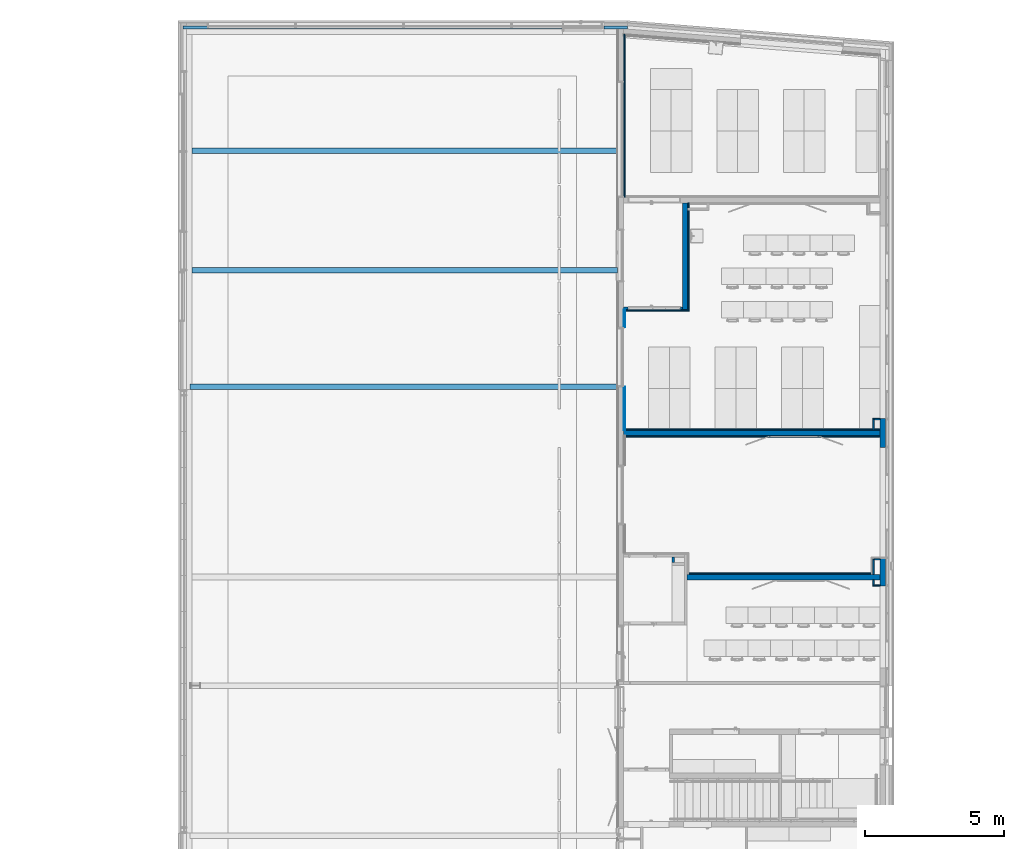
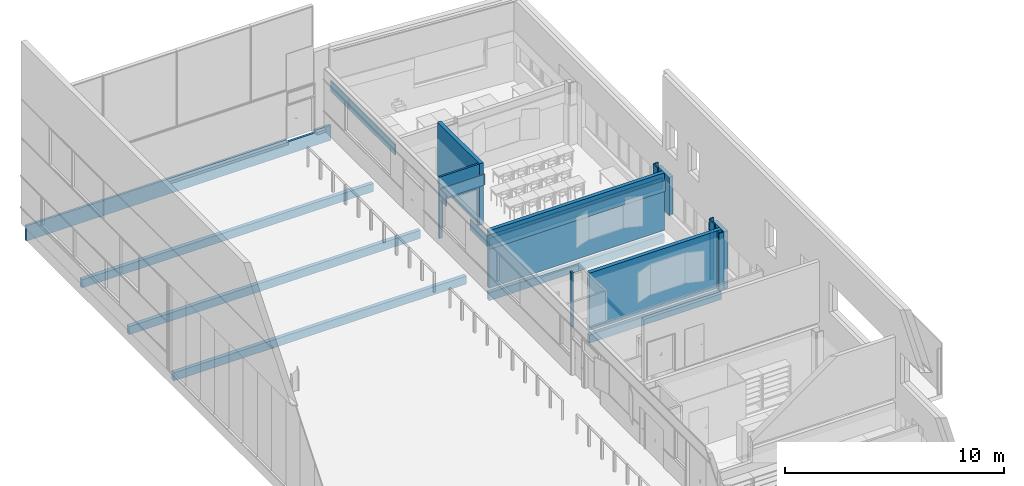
# One storey, part 65 of 137: 27 walls, 18 openings.
"""IFC2X3 building model written with IfcOpenShell, lengths in centimetres."""

from ifc_helpers import new_model, entity, si_unit, converted_unit, derived_unit, direction, frame, frame_2d, origin, place, context, subcontext, project, spatial, polyline, rectangle, outline, extrude, clip, bounded_halfspace, material, layer, layer_set, layer_usage, type_object, element, save


model = new_model("IFC2X3")

# Units and contexts
model_context = context("Model", 3, precision=0.001, world=origin(), true_north=direction((6.12303176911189e-17, 1.0)))
body_context = subcontext(model_context, "Body", "Model", "MODEL_VIEW")
ifc_project = project(units=[si_unit("LENGTHUNIT", "METRE", prefix="CENTI"), si_unit("AREAUNIT", "SQUARE_METRE"), si_unit("VOLUMEUNIT", "CUBIC_METRE"), converted_unit("PLANEANGLEUNIT", "DEGREE", entity("IfcRatioMeasure", 0.0174532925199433), si_unit("PLANEANGLEUNIT", "RADIAN"), dimensions=[0, 0, 0, 0, 0, 0, 0]), si_unit("MASSUNIT", "GRAM", prefix="KILO"), si_unit("TIMEUNIT", "SECOND"), si_unit("FREQUENCYUNIT", "HERTZ"), si_unit("THERMODYNAMICTEMPERATUREUNIT", "DEGREE_CELSIUS"), derived_unit("THERMALTRANSMITTANCEUNIT", [(si_unit("MASSUNIT", "GRAM", prefix="KILO"), 1), (si_unit("THERMODYNAMICTEMPERATUREUNIT", "KELVIN"), -1), (si_unit("TIMEUNIT", "SECOND"), -3)]), derived_unit("VOLUMETRICFLOWRATEUNIT", [(si_unit("LENGTHUNIT", "METRE"), 3), (si_unit("TIMEUNIT", "SECOND"), -1)]), si_unit("ELECTRICCURRENTUNIT", "AMPERE"), si_unit("ELECTRICVOLTAGEUNIT", "VOLT"), si_unit("POWERUNIT", "WATT"), si_unit("FORCEUNIT", "NEWTON", prefix="KILO"), si_unit("ILLUMINANCEUNIT", "LUX"), si_unit("LUMINOUSFLUXUNIT", "LUMEN"), si_unit("LUMINOUSINTENSITYUNIT", "CANDELA"), derived_unit("USERDEFINED", [(si_unit("MASSUNIT", "GRAM", prefix="KILO"), -1), (si_unit("LENGTHUNIT", "METRE"), -2), (si_unit("TIMEUNIT", "SECOND"), 3), (si_unit("LUMINOUSFLUXUNIT", "LUMEN"), 1)]), derived_unit("LINEARVELOCITYUNIT", [(si_unit("LENGTHUNIT", "METRE"), 1), (si_unit("TIMEUNIT", "SECOND"), -1)]), si_unit("PRESSUREUNIT", "PASCAL"), derived_unit("USERDEFINED", [(si_unit("LENGTHUNIT", "METRE"), -2), (si_unit("MASSUNIT", "GRAM", prefix="KILO"), 1), (si_unit("TIMEUNIT", "SECOND"), -2)])], contexts=[model_context])

# Site, building, storey
site_placement = place(None, frame((8.62739174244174, -249.285249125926, 0.0)))
site = spatial("IfcSite", under=ifc_project, at=site_placement, Name="Default", CompositionType="ELEMENT")
building_placement = place(site_placement, origin())
building = spatial("IfcBuilding", under=site, at=building_placement, CompositionType="ELEMENT")
storey_placement = place(building_placement, origin())
storey = spatial("IfcBuildingStorey", under=building, at=storey_placement, Name="RDC", CompositionType="ELEMENT", Elevation=-8.82465566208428e-11)

# Walls
ifc_material_1 = material(Name="Plâtre")
ifc_layer_1 = layer(ifc_material_1, 10.0)
ifc_layer_set_1 = layer_set([ifc_layer_1], Name="Mur de base:PLA 10")
ifc_layer_usage_1 = layer_usage(ifc_layer_set_1, "AXIS2", "NEGATIVE", 5.0)
wall_type_1 = type_object("IfcWallType", Name="Mur de base:PLA 10", PredefinedType="STANDARD", material=ifc_layer_set_1)
wall_1_placement = place(storey_placement, frame((3232.6797719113, 5637.48020813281, 0.0), z_axis=(0.0, 0.0, 1.0), x_axis=(0.0, 1.0, 0.0)))
element("IfcWallStandardCase", 1, at=wall_1_placement, inside=storey, type_object=wall_type_1, material=ifc_layer_usage_1, Name="Mur de base:PLA 10", ObjectType="Mur de base:PLA 10", context=body_context, shape_type="SweptSolid", body=[
    extrude(rectangle(XDim=20.0000000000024, YDim=10.0000000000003, at=frame_2d((10.0000000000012, 0.0), x_axis=(-1.0, 0.0))), origin(), (0.0, 0.0, 1.0), 300.0),
])
ifc_layer_2 = layer(ifc_material_1, 5.0)
ifc_layer_set_2 = layer_set([ifc_layer_2], Name="Mur de base:PLA 5")
ifc_layer_usage_2 = layer_usage(ifc_layer_set_2, "AXIS2", "NEGATIVE", 2.5)
wall_type_2 = type_object("IfcWallType", Name="Mur de base:PLA 5", PredefinedType="STANDARD", material=ifc_layer_set_2)
wall_2_placement = place(storey_placement, frame((3978.90482781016, 5554.9802081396, 0.0), z_axis=(0.0, 0.0, 1.0), x_axis=(-1.0, 0.0, 0.0)))
element("IfcWallStandardCase", 2, at=wall_2_placement, inside=storey, type_object=wall_type_2, material=ifc_layer_usage_2, Name="Mur de base:PLA 5", ObjectType="Mur de base:PLA 5", context=body_context, shape_type="Clipping", body=[
    clip(extrude(rectangle(XDim=25.9999999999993, YDim=5.0000000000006, at=frame_2d((12.9999999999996, 0.0), x_axis=(-1.0, 0.0))), origin(), (0.0, 0.0, 1.0), 320.000000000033), bounded_halfspace(frame((0.0, -2.49999999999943, 320.0), z_axis=(0.0, 0.0, -1.0), x_axis=(0.0, -1.0, 0.0)), True, frame((0.0, -2.49999999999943, 320.0)), polyline([(0.0, 0.0), (21.0, 0.0), (26.0, 0.0), (26.0, 5.0), (0.0, 5.0), (0.0, 0.0)]))),
])
ifc_layer_usage_3 = layer_usage(ifc_layer_set_2, "AXIS2", "NEGATIVE", 2.5)
wall_3_placement = place(storey_placement, frame((3955.40482781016, 5557.4802081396, 0.0), z_axis=(0.0, 0.0, 1.0), x_axis=(0.0, 1.0, 0.0)))
element("IfcWallStandardCase", 3, at=wall_3_placement, inside=storey, type_object=wall_type_2, material=ifc_layer_usage_3, Name="Mur de base:PLA 5", ObjectType="Mur de base:PLA 5", context=body_context, shape_type="Clipping", body=[
    clip(extrude(rectangle(XDim=17.5000000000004, YDim=5.0000000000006, at=frame_2d((8.75000000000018, 0.0), x_axis=(-1.0, 0.0))), origin(), (0.0, 0.0, 1.0), 320.000000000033), bounded_halfspace(frame((0.0, -2.49999999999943, 320.0), z_axis=(0.0, 0.0, -1.0), x_axis=(1.0, 0.0, 0.0)), True, frame((0.0, -2.49999999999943, 320.0)), polyline([(0.0, 0.0), (17.5000000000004, 0.0), (17.5000000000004, 5.0), (0.0, 5.0), (0.0, 0.0)]))),
])
ifc_layer_usage_4 = layer_usage(ifc_layer_set_2, "AXIS2", "POSITIVE", -2.5)
wall_4_placement = place(storey_placement, frame((3978.90482781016, 5649.4802081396, 0.0), z_axis=(0.0, 0.0, 1.0), x_axis=(-1.0, 0.0, 0.0)))
element("IfcWallStandardCase", 4, at=wall_4_placement, inside=storey, type_object=wall_type_2, material=ifc_layer_usage_4, Name="Mur de base:PLA 5", ObjectType="Mur de base:PLA 5", context=body_context, shape_type="Clipping", body=[
    clip(extrude(rectangle(XDim=20.9999999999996, YDim=5.0000000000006, at=frame_2d((10.4999999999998, 5.72875080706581e-14), x_axis=(-1.0, 0.0))), origin(), (0.0, 0.0, 1.0), 320.000000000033), bounded_halfspace(frame((0.0, -2.49999999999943, 320.0), z_axis=(0.0, 0.0, -1.0), x_axis=(0.0, -1.0, 0.0)), True, frame((0.0, -2.49999999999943, 320.0)), polyline([(0.0, 0.0), (21.0, 0.0), (21.0, 5.0), (0.0, 5.0), (0.0, 0.0)]))),
])
ifc_layer_usage_5 = layer_usage(ifc_layer_set_2, "AXIS2", "POSITIVE", -2.5)
wall_5_placement = place(storey_placement, frame((3955.40482781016, 5651.9802081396, 0.0), z_axis=(0.0, 0.0, 1.0), x_axis=(0.0, -1.0, 0.0)))
element("IfcWallStandardCase", 5, at=wall_5_placement, inside=storey, type_object=wall_type_2, material=ifc_layer_usage_5, Name="Mur de base:PLA 5", ObjectType="Mur de base:PLA 5", context=body_context, shape_type="Clipping", body=[
    clip(extrude(rectangle(XDim=56.9999999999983, YDim=5.0000000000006, at=frame_2d((28.4999999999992, 1.55875312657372e-13), x_axis=(-1.0, 0.0))), origin(), (0.0, 0.0, 1.0), 320.000000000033), bounded_halfspace(frame((0.0, -2.49999999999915, 320.0), z_axis=(0.0, 0.0, -1.0), x_axis=(-1.0, 0.0, 0.0)), True, frame((0.0, -2.49999999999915, 320.0)), polyline([(0.0, 0.0), (57.0, 0.0), (57.0, 5.0), (5.0, 5.0), (0.0, 5.0), (0.0, 0.0)]))),
])
ifc_layer_usage_6 = layer_usage(ifc_layer_set_2, "AXIS2", "POSITIVE", -2.5)
wall_6_placement = place(storey_placement, frame((3978.90482781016, 5649.4802081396, 0.0), z_axis=(0.0, 0.0, 1.0), x_axis=(-1.0, 0.0, 0.0)))
element("IfcWallStandardCase", 6, at=wall_6_placement, inside=storey, type_object=wall_type_2, material=ifc_layer_usage_6, Name="Mur de base:PLA 5", ObjectType="Mur de base:PLA 5", context=body_context, shape_type="SweptSolid", body=[
    extrude(rectangle(XDim=20.9999999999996, YDim=5.0000000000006, at=frame_2d((10.4999999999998, 5.72875080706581e-14), x_axis=(-1.0, 0.0))), origin(), (0.0, 0.0, 1.0), 343.000000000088),
])
ifc_layer_usage_7 = layer_usage(ifc_layer_set_2, "AXIS2", "POSITIVE", -2.5)
wall_7_placement = place(storey_placement, frame((3955.40482781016, 5646.9802081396, 0.0), z_axis=(0.0, 0.0, 1.0), x_axis=(0.0, -1.0, 0.0)))
element("IfcWallStandardCase", 7, at=wall_7_placement, inside=storey, type_object=wall_type_2, material=ifc_layer_usage_7, Name="Mur de base:PLA 5", ObjectType="Mur de base:PLA 5", context=body_context, shape_type="SweptSolid", body=[
    extrude(rectangle(XDim=51.9999999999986, YDim=5.0000000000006, at=frame_2d((25.9999999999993, 1.4210854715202e-13), x_axis=(-1.0, 0.0))), origin(), (0.0, 0.0, 1.0), 343.000000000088),
])
ifc_layer_usage_8 = layer_usage(ifc_layer_set_2, "AXIS2", "POSITIVE", -2.5)
wall_8_placement = place(storey_placement, frame((3978.90482781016, 6154.9802081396, 0.0), z_axis=(0.0, 0.0, 1.0), x_axis=(-1.0, 0.0, 0.0)))
element("IfcWallStandardCase", 8, at=wall_8_placement, inside=storey, type_object=wall_type_2, material=ifc_layer_usage_8, Name="Mur de base:PLA 5", ObjectType="Mur de base:PLA 5", context=body_context, shape_type="SweptSolid", body=[
    extrude(rectangle(XDim=20.9999999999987, YDim=5.0000000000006, at=frame_2d((10.4999999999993, 5.72875080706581e-14), x_axis=(-1.0, 0.0))), origin(), (0.0, 0.0, 1.0), 343.000000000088),
])
ifc_layer_usage_9 = layer_usage(ifc_layer_set_2, "AXIS2", "POSITIVE", -2.5)
wall_9_placement = place(storey_placement, frame((3955.40482781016, 6157.4802081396, 0.0), z_axis=(0.0, 0.0, 1.0), x_axis=(0.0, -1.0, 0.0)))
element("IfcWallStandardCase", 9, at=wall_9_placement, inside=storey, type_object=wall_type_2, material=ifc_layer_usage_9, Name="Mur de base:PLA 5", ObjectType="Mur de base:PLA 5", context=body_context, shape_type="SweptSolid", body=[
    extrude(rectangle(XDim=42.4999999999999, YDim=5.0000000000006, at=frame_2d((21.2499999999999, 1.16129328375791e-13), x_axis=(-1.0, 0.0))), origin(), (0.0, 0.0, 1.0), 343.000000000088),
])
ifc_material_2 = material(Name="Béton, coulé sur place, gris")
ifc_layer_3 = layer(ifc_material_2, 20.0)
ifc_layer_set_3 = layer_set([ifc_layer_3], Name="Mur de base:BET 20")
ifc_layer_usage_10 = layer_usage(ifc_layer_set_3, "AXIS2", "NEGATIVE", 10.0)
wall_type_3 = type_object("IfcWallType", Name="Mur de base:BET 20", PredefinedType="STANDARD", material=ifc_layer_set_3)
wall_10_placement = place(storey_placement, frame((3275.9048276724, 6934.9802081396, 0.0), z_axis=(0.0, 0.0, 1.0), x_axis=(0.0, -1.0, 0.0)))
element("IfcWallStandardCase", 10, at=wall_10_placement, inside=storey, type_object=wall_type_3, material=ifc_layer_usage_10, Name="Mur de base:BET 20", ObjectType="Mur de base:BET 20", context=body_context, shape_type="SweptSolid", body=[
    extrude(rectangle(XDim=385.000019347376, YDim=19.9999999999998, at=frame_2d((192.500009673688, -2.66453525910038e-15), x_axis=(-1.0, 0.0))), origin(), (0.0, 0.0, 1.0), 343.000000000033),
])

# Wall, opening
ifc_layer_usage_11 = layer_usage(ifc_layer_set_3, "AXIS2", "NEGATIVE", 10.0)
wall_11_placement = place(storey_placement, frame((3978.90482781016, 6104.9802081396, -70.0), z_axis=(0.0, 0.0, 1.0), x_axis=(-1.0, 0.0, 0.0)))
wall_11 = element("IfcWallStandardCase", 11, at=wall_11_placement, inside=storey, type_object=wall_type_3, material=ifc_layer_usage_11, Name="Mur de base:BET 20", ObjectType="Mur de base:BET 20", context=body_context, shape_type="Clipping", body=[
    clip(extrude(rectangle(XDim=925.000000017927, YDim=20.0000000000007, at=frame_2d((462.500000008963, 4.08562073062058e-14), x_axis=(-1.0, 0.0))), origin(), (0.0, 0.0, 1.0), 390.000000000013), bounded_halfspace(frame((0.0, -10.0, 390.0), z_axis=(0.0, 0.0, -1.0), x_axis=(0.0, -1.0, 0.0)), True, frame((0.0, -10.0, 390.0)), polyline([(0.0, 0.0), (925.0, 0.0), (925.0, 20.0), (0.0, 20.0), (0.0, 0.0)]))),
])
opening_1_placement = place(storey_placement, frame((3978.90482781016, 6104.9802081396, -70.0), z_axis=(0.0, 0.0, 1.0), x_axis=(-1.0, 0.0, 0.0)))
element("IfcOpeningElement", 12, at=opening_1_placement, cuts=wall_11, Name="Mur de base:BET 20:1", ObjectType="Opening", context=body_context, shape_type="SweptSolid", body=[
    extrude(rectangle(XDim=925.000000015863, YDim=19.9999999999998, at=frame_2d((-2.27373675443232e-13, 8.65973959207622e-13), x_axis=(1.0, 0.0))), frame((462.500000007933, 0.0, 45.0)), (0.0, 0.0, 1.0), 25.0),
])

# Walls
wall_12_placement = place(storey_placement, frame((3282.90482780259, 5584.9802081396, -70.0)))
element("IfcWall", 13, at=wall_12_placement, inside=storey, type_object=wall_type_3, Name="Mur de base:BET 20", ObjectType="Mur de base:BET 20", context=body_context, shape_type="SweptSolid", body=[
    extrude(rectangle(XDim=19.9999999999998, YDim=696.000000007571, at=frame_2d((4.33431068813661e-13, 1.98951966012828e-13), x_axis=(1.0, 0.0))), frame((348.0, 0.0, 0.0), z_axis=(0.0, 0.0, 1.0), x_axis=(0.0, 1.0, 0.0)), (0.0, 0.0, 1.0), 44.9999999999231),
    extrude(rectangle(XDim=19.9999999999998, YDim=696.000000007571, at=frame_2d((4.33431068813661e-13, 1.98951966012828e-13), x_axis=(1.0, 0.0))), frame((348.0, 0.0, 70.0), z_axis=(0.0, 0.0, 1.0), x_axis=(0.0, 1.0, 0.0)), (0.0, 0.0, 1.0), 320.000000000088),
])
ifc_layer_usage_12 = layer_usage(ifc_layer_set_3, "AXIS2", "NEGATIVE", 10.0)
wall_13_placement = place(storey_placement, frame((3988.90482781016, 5552.4802081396, 0.0), z_axis=(0.0, 0.0, 1.0), x_axis=(0.0, 1.0, 0.0)))
element("IfcWallStandardCase", 14, at=wall_13_placement, inside=storey, type_object=wall_type_3, material=ifc_layer_usage_12, Name="Mur de base:BET 20", ObjectType="Mur de base:BET 20", context=body_context, shape_type="SweptSolid", body=[
    extrude(rectangle(XDim=99.4999999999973, YDim=20.0000000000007, at=frame_2d((49.7499999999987, 0.0), x_axis=(-1.0, 0.0))), origin(), (0.0, 0.0, 1.0), 320.000000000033),
])
ifc_layer_usage_13 = layer_usage(ifc_layer_set_3, "AXIS2", "NEGATIVE", 10.0)
wall_14_placement = place(storey_placement, frame((3988.90482781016, 6052.4802081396, 105.0), z_axis=(0.0, 0.0, 1.0), x_axis=(0.0, 1.0, 0.0)))
element("IfcWallStandardCase", 15, at=wall_14_placement, inside=storey, type_object=wall_type_3, material=ifc_layer_usage_13, Name="Mur de base:BET 20", ObjectType="Mur de base:BET 20", context=body_context, shape_type="SweptSolid", body=[
    extrude(rectangle(XDim=105.0, YDim=20.0000000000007, at=frame_2d((52.5000000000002, 0.0), x_axis=(-1.0, 0.0))), origin(), (0.0, 0.0, 1.0), 215.000000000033),
])
ifc_layer_usage_14 = layer_usage(ifc_layer_set_3, "AXIS2", "NEGATIVE", 10.0)
wall_15_placement = place(storey_placement, frame((3032.1548277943, 7122.47694586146, -70.0), z_axis=(0.0, 0.0, 1.0), x_axis=(-1.0, 0.0, 0.0)))
element("IfcWallStandardCase", 16, at=wall_15_placement, inside=storey, type_object=wall_type_3, material=ifc_layer_usage_14, Name="Mur de base:BET 20", ObjectType="Mur de base:BET 20", context=body_context, shape_type="SweptSolid", body=[
    extrude(rectangle(XDim=1535.25, YDim=20.0000000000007, at=frame_2d((767.624999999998, 0.0), x_axis=(-1.0, 0.0))), origin(), (0.0, 0.0, 1.0), 45.0),
])
ifc_layer_usage_15 = layer_usage(ifc_layer_set_3, "AXIS2", "NEGATIVE", 10.0)
wall_16_placement = place(storey_placement, frame((3032.1548277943, 6692.4720025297, -70.0), z_axis=(0.0, 0.0, 1.0), x_axis=(-1.0, 0.0, 0.0)))
element("IfcWallStandardCase", 17, at=wall_16_placement, inside=storey, type_object=wall_type_3, material=ifc_layer_usage_15, Name="Mur de base:BET 20", ObjectType="Mur de base:BET 20", context=body_context, shape_type="SweptSolid", body=[
    extrude(rectangle(XDim=1535.25, YDim=20.0000000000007, at=frame_2d((767.624999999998, 0.0), x_axis=(-1.0, 0.0))), origin(), (0.0, 0.0, 1.0), 45.0),
])
ifc_layer_usage_16 = layer_usage(ifc_layer_set_3, "AXIS2", "NEGATIVE", 10.0)
wall_17_placement = place(storey_placement, frame((3032.1548277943, 6272.4720025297, -70.0), z_axis=(0.0, 0.0, 1.0), x_axis=(-1.0, 0.0, 0.0)))
element("IfcWallStandardCase", 18, at=wall_17_placement, inside=storey, type_object=wall_type_3, material=ifc_layer_usage_16, Name="Mur de base:BET 20", ObjectType="Mur de base:BET 20", context=body_context, shape_type="SweptSolid", body=[
    extrude(rectangle(XDim=1542.75000000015, YDim=20.0000000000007, at=frame_2d((771.375000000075, 0.0), x_axis=(-1.0, 0.0))), origin(), (0.0, 0.0, 1.0), 45.0),
])

# Wall, opening
ifc_material_3 = material(Name="Stuc")
ifc_layer_4 = layer(ifc_material_3, 10.0)
ifc_layer_set_4 = layer_set([ifc_layer_4], Name="Mur de base:CIM 10")
ifc_layer_usage_17 = layer_usage(ifc_layer_set_4, "AXIS2", "NEGATIVE", 5.0)
wall_type_4 = type_object("IfcWallType", Name="Mur de base:CIM 10", PredefinedType="STANDARD", material=ifc_layer_set_4)
wall_18_placement = place(storey_placement, frame((3265.9048276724, 6554.98018879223, 0.0), z_axis=(0.0, 0.0, 1.0), x_axis=(-1.0, 0.0, 0.0)))
wall_18 = element("IfcWallStandardCase", 19, at=wall_18_placement, inside=storey, type_object=wall_type_4, material=ifc_layer_usage_17, Name="Mur de base:CIM 10", ObjectType="Mur de base:CIM 10", context=body_context, shape_type="SweptSolid", body=[
    extrude(rectangle(XDim=211.999999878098, YDim=9.99999999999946, at=frame_2d((105.999999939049, 4.30766533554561e-14), x_axis=(-1.0, 0.0))), origin(), (0.0, 0.0, 1.0), 343.000000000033),
])
opening_2_placement = place(wall_18_placement, frame((196.0, 5.0, 0.0)))
element("IfcOpeningElement", 20, at=opening_2_placement, cuts=wall_18, Name="Double(R)_bois_mu:183 x 204 cm:1", ObjectType="Opening", context=body_context, shape_type="SweptSolid", body=[
    extrude(rectangle(XDim=206.999999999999, YDim=189.0, at=frame_2d((103.499999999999, 94.4999999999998), x_axis=(1.0, 0.0))), frame((0.0, 0.0, 0.0), z_axis=(0.0, -1.0, 0.0), x_axis=(0.0, 0.0, 1.0)), (0.0, 0.0, 1.0), 10.0),
])

# Wall, openings
ifc_material_4 = material(Name="Maçonnerie")
ifc_layer_5 = layer(ifc_material_4, 1.0)
ifc_material_5 = material(Name="Laine minérale")
ifc_layer_6 = layer(ifc_material_5, 9.0)
ifc_layer_7 = layer(ifc_material_1, 2.0)
ifc_layer_set_5 = layer_set([ifc_layer_5, ifc_layer_6, ifc_layer_7], Name="Mur de base:PLA 2 +  + ISO 9 + ETAN 1")
ifc_layer_usage_18 = layer_usage(ifc_layer_set_5, "AXIS2", "NEGATIVE", 6.0)
wall_type_5 = type_object("IfcWallType", Name="Mur de base:PLA 2 +  + ISO 9 + ETAN 1", PredefinedType="STANDARD", material=ifc_layer_set_5)
wall_19_placement = place(storey_placement, frame((3067.57652415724, 7567.976551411, -70.0), z_axis=(0.0, 0.0, 1.0), x_axis=(-1.0, 0.0, 0.0)))
wall_19 = element("IfcWallStandardCase", 21, at=wall_19_placement, inside=storey, type_object=wall_type_5, material=ifc_layer_usage_18, Name="Mur de base:PLA 2 +  + ISO 9 + ETAN 1", ObjectType="Mur de base:PLA 2 +  + ISO 9 + ETAN 1", context=body_context, shape_type="SweptSolid", body=[
    extrude(outline(polyline([(1604.17169636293, -6.0), (1604.17169636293, 6.0), (0.473686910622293, 6.0), (0.0, -6.0), (1604.17169636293, -6.0)])), origin(), (0.0, 0.0, 1.0), 85.0000000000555),
])
opening_3_placement = place(wall_19_placement, origin())
element("IfcOpeningElement", 22, at=opening_3_placement, cuts=wall_19, Name="Mur de base:PLA 2 +  + ISO 9 + ETAN 1", ObjectType="Opening", context=body_context, shape_type="SweptSolid", body=[
    extrude(rectangle(XDim=206.999999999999, YDim=149.0, at=frame_2d((0.0, 0.0), x_axis=(0.0, 1.0))), frame((160.171696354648, -173.399999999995, 173.499999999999), z_axis=(0.0, 1.0, 0.0), x_axis=(-1.0, 0.0, 0.0)), (0.0, 0.0, 1.0), 304.8),
])
opening_4_placement = place(wall_19_placement, origin())
element("IfcOpeningElement", 23, at=opening_4_placement, cuts=wall_19, Name="Mur de base:PLA 2 +  + ISO 9 + ETAN 1", ObjectType="Opening", context=body_context, shape_type="SweptSolid", body=[
    extrude(outline(polyline([(-50.3333333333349, -117.666666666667), (99.6666666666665, -117.666666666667), (99.6666666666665, -44.6666666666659), (-49.3333333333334, -44.6666666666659), (-49.3333333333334, 162.333333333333), (-50.3333333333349, 162.333333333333), (-50.3333333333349, -117.666666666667)])), frame((135.005029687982, -21.2399999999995, 232.333333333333), z_axis=(0.0, 1.0, 0.0), x_axis=(1.0, 0.0, 0.0)), (0.0, 0.0, 1.0), 42.4799999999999),
])

# Walls
ifc_layer_8 = layer(ifc_material_5, 3.0)
ifc_material_6 = material(Name="Panneau de grandes particules orientées(1)")
ifc_layer_9 = layer(ifc_material_6, 2.0)
ifc_layer_set_6 = layer_set([ifc_layer_8, ifc_layer_9], Name="Mur de base:ACOUST panneaux fibres")
ifc_layer_usage_19 = layer_usage(ifc_layer_set_6, "AXIS2", "NEGATIVE", 2.5)
wall_type_6 = type_object("IfcWallType", Name="Mur de base:ACOUST panneaux fibres", PredefinedType="STANDARD", material=ifc_layer_set_6)
wall_20_placement = place(storey_placement, frame((3952.90482781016, 5597.4802081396, 220.0), z_axis=(0.0, 0.0, 1.0), x_axis=(-1.0, 0.0, 0.0)))
element("IfcWallStandardCase", 24, at=wall_20_placement, inside=storey, type_object=wall_type_6, material=ifc_layer_usage_19, Name="Mur de base:ACOUST panneaux fibres", ObjectType="Mur de base:ACOUST panneaux fibres", context=body_context, shape_type="SweptSolid", body=[
    extrude(rectangle(XDim=670.000000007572, YDim=5.0000000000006, at=frame_2d((335.000000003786, 0.0), x_axis=(-1.0, 0.0))), origin(), (0.0, 0.0, 1.0), 60.0),
])
ifc_layer_usage_20 = layer_usage(ifc_layer_set_6, "AXIS2", "NEGATIVE", 2.5)
wall_21_placement = place(storey_placement, frame((3053.9048277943, 6092.4802081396, 220.0)))
element("IfcWallStandardCase", 25, at=wall_21_placement, inside=storey, type_object=wall_type_6, material=ifc_layer_usage_20, Name="Mur de base:ACOUST panneaux fibres", ObjectType="Mur de base:ACOUST panneaux fibres", context=body_context, shape_type="SweptSolid", body=[
    extrude(rectangle(XDim=925.000000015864, YDim=5.0000000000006, at=frame_2d((462.500000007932, 0.0), x_axis=(-1.0, 0.0))), origin(), (0.0, 0.0, 1.0), 60.0),
])
ifc_layer_usage_21 = layer_usage(ifc_layer_set_6, "AXIS2", "NEGATIVE", 2.5)
wall_22_placement = place(storey_placement, frame((3978.90482781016, 6117.4802081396, 220.0), z_axis=(0.0, 0.0, 1.0), x_axis=(-1.0, 0.0, 0.0)))
element("IfcWallStandardCase", 26, at=wall_22_placement, inside=storey, type_object=wall_type_6, material=ifc_layer_usage_21, Name="Mur de base:ACOUST panneaux fibres", ObjectType="Mur de base:ACOUST panneaux fibres", context=body_context, shape_type="SweptSolid", body=[
    extrude(rectangle(XDim=925.000000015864, YDim=5.0000000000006, at=frame_2d((462.500000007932, 0.0), x_axis=(-1.0, 0.0))), origin(), (0.0, 0.0, 1.0), 60.0),
])

# Wall, openings
ifc_layer_usage_22 = layer_usage(ifc_layer_set_6, "AXIS2", "NEGATIVE", 2.5)
wall_23_placement = place(storey_placement, frame((3056.4048277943, 6114.9802081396, 220.0), z_axis=(0.0, 0.0, 1.0), x_axis=(0.0, 1.0, 0.0)))
wall_23 = element("IfcWallStandardCase", 27, at=wall_23_placement, inside=storey, type_object=wall_type_6, material=ifc_layer_usage_22, Name="Mur de base:ACOUST panneaux fibres", ObjectType="Mur de base:ACOUST panneaux fibres", context=body_context, shape_type="SweptSolid", body=[
    extrude(rectangle(XDim=434.999980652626, YDim=4.99999999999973, at=frame_2d((217.499990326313, 0.0), x_axis=(-1.0, 0.0))), origin(), (0.0, 0.0, 1.0), 60.0),
])
opening_5_placement = place(wall_23_placement, origin())
element("IfcOpeningElement", 28, at=opening_5_placement, cuts=wall_23, Name="Mur de base:ACOUST panneaux fibres", ObjectType="Opening", context=body_context, shape_type="SweptSolid", body=[
    extrude(rectangle(XDim=170.00000000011, YDim=215.000000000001, at=frame_2d((0.0, -4.33431068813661e-13), x_axis=(1.0, 0.0))), frame((263.795014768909, -17.74, -25.0), z_axis=(0.0, 1.0, 0.0), x_axis=(0.0, 0.0, 1.0)), (0.0, 0.0, 1.0), 35.4800000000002),
])
opening_6_placement = place(wall_23_placement, origin())
element("IfcOpeningElement", 29, at=opening_6_placement, cuts=wall_23, Name="Mur de base:ACOUST panneaux fibres", ObjectType="Opening", context=body_context, shape_type="SweptSolid", body=[
    extrude(rectangle(XDim=170.00000000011, YDim=215.000000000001, at=frame_2d((0.0, 4.33431068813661e-13), x_axis=(1.0, 0.0))), frame((-3032.50000072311, -17.7400000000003, -25.0), z_axis=(0.0, 1.0, 0.0), x_axis=(0.0, 0.0, 1.0)), (0.0, 0.0, 1.0), 35.4800000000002),
])
opening_7_placement = place(wall_23_placement, origin())
element("IfcOpeningElement", 30, at=opening_7_placement, cuts=wall_23, Name="Mur de base:ACOUST panneaux fibres", ObjectType="Opening", context=body_context, shape_type="SweptSolid", body=[
    extrude(rectangle(XDim=170.0, YDim=100.0, at=frame_2d((0.0, -2.16715534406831e-13), x_axis=(1.0, 0.0))), frame((-2737.79501477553, -17.7400000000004, -25.0), z_axis=(0.0, 1.0, 0.0), x_axis=(0.0, 0.0, 1.0)), (0.0, 0.0, 1.0), 35.4800000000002),
])
opening_8_placement = place(wall_23_placement, origin())
element("IfcOpeningElement", 31, at=opening_8_placement, cuts=wall_23, Name="Mur de base:ACOUST panneaux fibres", ObjectType="Opening", context=body_context, shape_type="SweptSolid", body=[
    extrude(rectangle(XDim=170.0, YDim=100.000000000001, at=frame_2d((0.0, 4.33431068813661e-13), x_axis=(1.0, 0.0))), frame((-753.750000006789, -17.7400000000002, -25.0), z_axis=(0.0, 1.0, 0.0), x_axis=(0.0, 0.0, 1.0)), (0.0, 0.0, 1.0), 35.4800000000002),
])
opening_9_placement = place(wall_23_placement, origin())
element("IfcOpeningElement", 32, at=opening_9_placement, cuts=wall_23, Name="Mur de base:ACOUST panneaux fibres", ObjectType="Opening", context=body_context, shape_type="SweptSolid", body=[
    extrude(rectangle(XDim=71.9999999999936, YDim=150.999999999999, at=frame_2d((0.0, -2.8421709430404e-14), x_axis=(0.0, 1.0))), frame((-999.250000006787, -17.7400000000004, 24.0), z_axis=(0.0, 1.0, 0.0), x_axis=(-1.0, 0.0, 0.0)), (0.0, 0.0, 1.0), 35.4800000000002),
])
opening_10_placement = place(wall_23_placement, origin())
element("IfcOpeningElement", 33, at=opening_10_placement, cuts=wall_23, Name="Mur de base:ACOUST panneaux fibres", ObjectType="Opening", context=body_context, shape_type="SweptSolid", body=[
    extrude(rectangle(XDim=71.9999999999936, YDim=150.999999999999, at=frame_2d((0.0, -2.8421709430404e-14), x_axis=(0.0, 1.0))), frame((-3327.63214368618, -17.7400000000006, 24.0), z_axis=(0.0, 1.0, 0.0), x_axis=(-1.0, 0.0, 0.0)), (0.0, 0.0, 1.0), 35.4800000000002),
])
opening_11_placement = place(wall_23_placement, origin())
element("IfcOpeningElement", 34, at=opening_11_placement, cuts=wall_23, Name="Mur de base:ACOUST panneaux fibres", ObjectType="Opening", context=body_context, shape_type="SweptSolid", body=[
    extrude(rectangle(XDim=170.00000000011, YDim=215.000000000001, at=frame_2d((0.0, 4.33431068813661e-13), x_axis=(1.0, 0.0))), frame((-233.750000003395, -17.7400000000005, -25.0), z_axis=(0.0, 1.0, 0.0), x_axis=(0.0, 0.0, 1.0)), (0.0, 0.0, 1.0), 35.4800000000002),
])
opening_12_placement = place(wall_23_placement, origin())
element("IfcOpeningElement", 35, at=opening_12_placement, cuts=wall_23, Name="Mur de base:ACOUST panneaux fibres", ObjectType="Opening", context=body_context, shape_type="SweptSolid", body=[
    extrude(rectangle(XDim=170.0, YDim=420.000000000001, at=frame_2d((0.0, 4.2632564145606e-13), x_axis=(1.0, 0.0))), frame((1049.7205299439, -17.7400000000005, -25.0), z_axis=(0.0, 1.0, 0.0), x_axis=(0.0, 0.0, 1.0)), (0.0, 0.0, 1.0), 35.4800000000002),
])
opening_13_placement = place(wall_23_placement, origin())
element("IfcOpeningElement", 36, at=opening_13_placement, cuts=wall_23, Name="Mur de base:ACOUST panneaux fibres", ObjectType="Opening", context=body_context, shape_type="SweptSolid", body=[
    extrude(rectangle(XDim=71.9999999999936, YDim=101.999999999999, at=frame_2d((0.0, -2.8421709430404e-14), x_axis=(0.0, 1.0))), frame((-2262.7950147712, -17.7400000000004, 24.0), z_axis=(0.0, 1.0, 0.0), x_axis=(-1.0, 0.0, 0.0)), (0.0, 0.0, 1.0), 35.4800000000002),
])
opening_14_placement = place(wall_23_placement, origin())
element("IfcOpeningElement", 37, at=opening_14_placement, cuts=wall_23, Name="Mur de base:ACOUST panneaux fibres", ObjectType="Opening", context=body_context, shape_type="SweptSolid", body=[
    extrude(rectangle(XDim=279.0, YDim=188.999999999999, at=frame_2d((-1.4210854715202e-14, 4.33431068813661e-13), x_axis=(1.0, 0.0))), frame((-1945.29501477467, -149.9, -80.5000000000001), z_axis=(0.0, 1.0, 0.0), x_axis=(0.0, 0.0, 1.0)), (0.0, 0.0, 1.0), 304.8),
])
opening_15_placement = place(wall_23_placement, origin())
element("IfcOpeningElement", 38, at=opening_15_placement, cuts=wall_23, Name="Mur de base:ACOUST panneaux fibres", ObjectType="Opening", context=body_context, shape_type="SweptSolid", body=[
    extrude(rectangle(XDim=71.9999999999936, YDim=102.000000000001, at=frame_2d((0.0, -2.8421709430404e-14), x_axis=(0.0, 1.0))), frame((-854.75000000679, -17.7400000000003, 24.0), z_axis=(0.0, 1.0, 0.0), x_axis=(-1.0, 0.0, 0.0)), (0.0, 0.0, 1.0), 35.4800000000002),
])
opening_16_placement = place(wall_23_placement, origin())
element("IfcOpeningElement", 39, at=opening_16_placement, cuts=wall_23, Name="Mur de base:ACOUST panneaux fibres", ObjectType="Opening", context=body_context, shape_type="SweptSolid", body=[
    extrude(rectangle(XDim=170.0, YDim=100.000000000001, at=frame_2d((0.0, 4.33431068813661e-13), x_axis=(1.0, 0.0))), frame((-1799.79501477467, -17.7400000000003, -25.0), z_axis=(0.0, 1.0, 0.0), x_axis=(0.0, 0.0, 1.0)), (0.0, 0.0, 1.0), 35.4800000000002),
])
opening_17_placement = place(wall_23_placement, origin())
element("IfcOpeningElement", 40, at=opening_17_placement, cuts=wall_23, Name="Mur de base:ACOUST panneaux fibres", ObjectType="Opening", context=body_context, shape_type="SweptSolid", body=[
    extrude(rectangle(XDim=71.9999999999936, YDim=190.999999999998, at=frame_2d((0.0, -2.8421709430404e-14), x_axis=(0.0, 1.0))), frame((630.299990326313, -17.7400000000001, 24.0), z_axis=(0.0, 1.0, 0.0), x_axis=(-1.0, 0.0, 0.0)), (0.0, 0.0, 1.0), 35.4800000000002),
])
opening_18_placement = place(wall_23_placement, origin())
element("IfcOpeningElement", 41, at=opening_18_placement, cuts=wall_23, Name="Mur de base:ACOUST panneaux fibres", ObjectType="Opening", context=body_context, shape_type="SweptSolid", body=[
    extrude(rectangle(XDim=71.5000000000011, YDim=204.500000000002, at=frame_2d((-1.4210854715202e-14, -2.1316282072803e-13), x_axis=(1.0, 0.0))), frame((-2416.0450147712, -17.7400000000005, 24.2499999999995), z_axis=(0.0, 1.0, 0.0), x_axis=(0.0, 0.0, 1.0)), (0.0, 0.0, 1.0), 35.4800000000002),
])

# Walls
ifc_layer_usage_23 = layer_usage(ifc_layer_set_6, "AXIS2", "NEGATIVE", 2.5)
wall_24_placement = place(storey_placement, frame((3053.9048277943, 6547.48018879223, 220.0)))
element("IfcWallStandardCase", 42, at=wall_24_placement, inside=storey, type_object=wall_type_6, material=ifc_layer_usage_23, Name="Mur de base:ACOUST panneaux fibres", ObjectType="Mur de base:ACOUST panneaux fibres", context=body_context, shape_type="SweptSolid", body=[
    extrude(rectangle(XDim=231.999999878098, YDim=5.0000000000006, at=frame_2d((115.999999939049, 0.0), x_axis=(-1.0, 0.0))), origin(), (0.0, 0.0, 1.0), 60.0000000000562),
])
ifc_layer_usage_24 = layer_usage(ifc_layer_set_6, "AXIS2", "NEGATIVE", 2.5)
wall_25_placement = place(storey_placement, frame((3288.4048276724, 6544.98018879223, 220.0), z_axis=(0.0, 0.0, 1.0), x_axis=(0.0, 1.0, 0.0)))
element("IfcWallStandardCase", 43, at=wall_25_placement, inside=storey, type_object=wall_type_6, material=ifc_layer_usage_24, Name="Mur de base:ACOUST panneaux fibres", ObjectType="Mur de base:ACOUST panneaux fibres", context=body_context, shape_type="SweptSolid", body=[
    extrude(rectangle(XDim=390.000019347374, YDim=4.99999999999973, at=frame_2d((195.000009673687, 2.88657986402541e-15), x_axis=(-1.0, 0.0))), origin(), (0.0, 0.0, 1.0), 60.0),
])
ifc_layer_usage_25 = layer_usage(ifc_layer_set_6, "AXIS2", "NEGATIVE", 2.5)
wall_26_placement = place(storey_placement, frame((3056.4048277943, 7374.7007380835, 220.0), z_axis=(0.0, 0.0, 1.0), x_axis=(0.0, 1.0, 0.0)))
element("IfcWallStandardCase", 44, at=wall_26_placement, inside=storey, type_object=wall_type_6, material=ifc_layer_usage_25, Name="Mur de base:ACOUST panneaux fibres", ObjectType="Mur de base:ACOUST panneaux fibres", context=body_context, shape_type="SweptSolid", body=[
    extrude(outline(polyline([(-84.2220064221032, -2.50000000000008), (84.0243288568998, -2.50000000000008), (84.0243288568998, 2.50000000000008), (-83.8266512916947, 2.50000000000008), (-84.2220064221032, -2.50000000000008)])), frame((84.0243288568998, 0.0, 0.0), z_axis=(0.0, 0.0, 1.0), x_axis=(-1.0, 0.0, 0.0)), (0.0, 0.0, 1.0), 60.0),
])
ifc_layer_usage_26 = layer_usage(ifc_layer_set_6, "AXIS2", "NEGATIVE", 2.5)
wall_27_placement = place(storey_placement, frame((3056.4048277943, 7480.03526422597, 220.0), z_axis=(0.0, 0.0, 1.0), x_axis=(0.0, -1.0, 0.0)))
element("IfcWallStandardCase", 45, at=wall_27_placement, inside=storey, type_object=wall_type_6, material=ifc_layer_usage_26, Name="Mur de base:ACOUST panneaux fibres", ObjectType="Mur de base:ACOUST panneaux fibres", context=body_context, shape_type="SweptSolid", body=[
    extrude(rectangle(XDim=525.055056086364, YDim=4.99999999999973, at=frame_2d((262.527528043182, 8.65973959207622e-15), x_axis=(-1.0, 0.0))), origin(), (0.0, 0.0, 1.0), 60.0000000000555),
])

save(model, "model.ifc")
